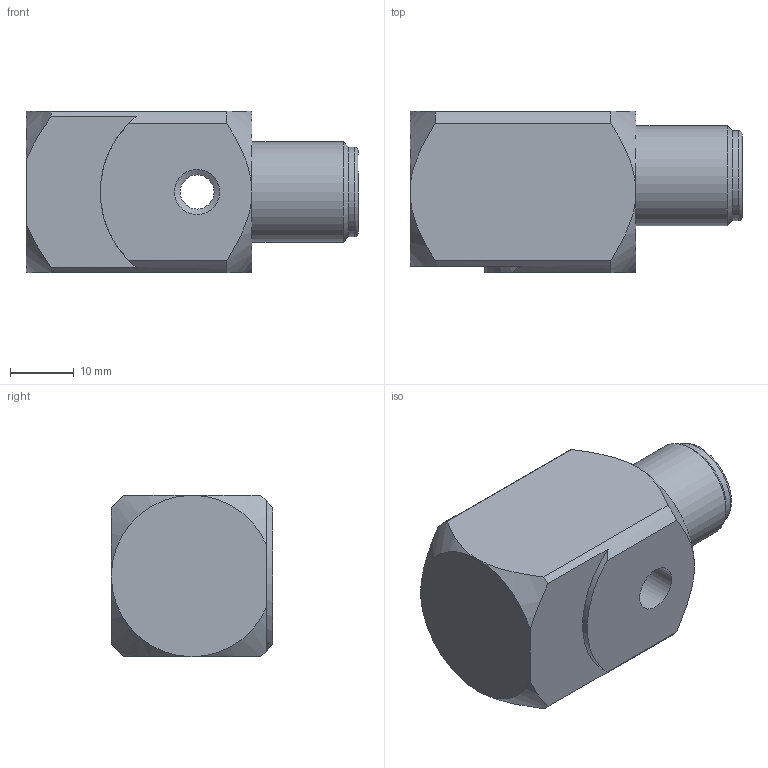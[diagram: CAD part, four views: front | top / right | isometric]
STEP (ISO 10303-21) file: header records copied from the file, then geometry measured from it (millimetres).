
FILE_DESCRIPTION(/* description */ ('ADDED MOUNTING HOLE PREP INFO'),/* implementation_level */ '2;1');
FILE_NAME(/* name */ 'C:\Users\jfriend\Desktop\----Step files\Meredith Christman\HT602D01\HT602D01.stp',/* time_stamp */ '2019-12-11T10:43:30-05:00',/* author */ ('jfriend'),/* organization */ (''),/* preprocessor_version */ 'ST-DEVELOPER v17',/* originating_system */ 'Autodesk Inventor 2019',/* authorisation */ '');
FILE_SCHEMA (('AUTOMOTIVE_DESIGN { 1 0 10303 214 3 1 1 }'));
Length unit declared in the file: inch
Products named in the file (1): HT602D01 
Bounding box: 52.25 x 25.4 x 25.4 mm (x, y, z)
Volume: 22743.1 mm3; surface area: 6487.8 mm2
Topology: 1 solids, 1 shells, 58 faces, 148 edges, 98 vertices
Faces by surface type: cylinder 21, cone 16, plane 15, torus 4, sphere 2
Full cylindrical faces by diameter (mm): 0.762 x1, 1.016 x2, 1.549 x2, 3.188 x2, 5.359 x1, 7.137 x1, 11.684 x1, 14.148 x1, 15.748 x1
Entity records: 1955 total; most frequent: CARTESIAN_POINT 413, DIRECTION 321, ORIENTED_EDGE 288, EDGE_CURVE 144, AXIS2_PLACEMENT_3D 140, VERTEX_POINT 98, CIRCLE 81, EDGE_LOOP 72
